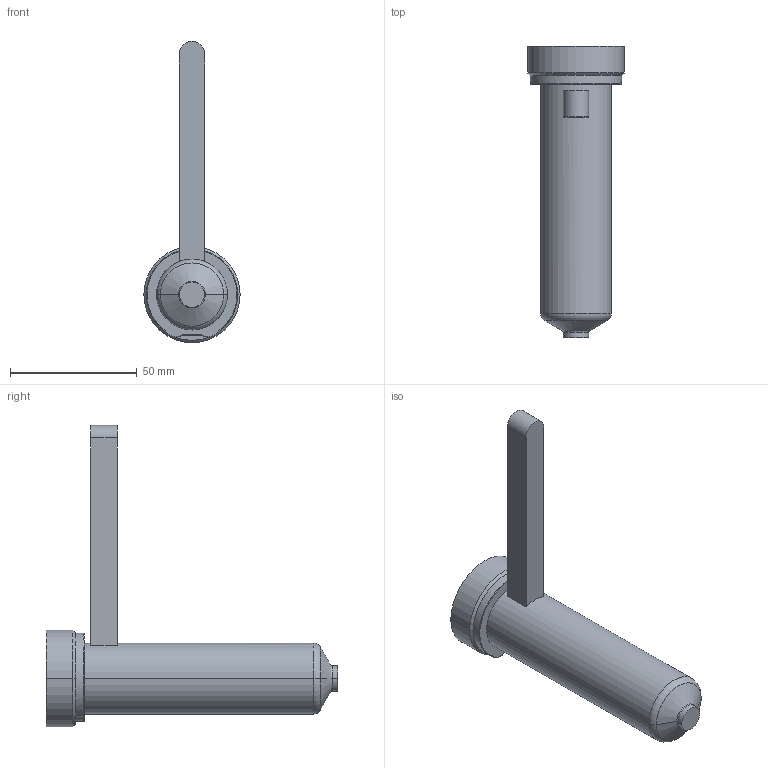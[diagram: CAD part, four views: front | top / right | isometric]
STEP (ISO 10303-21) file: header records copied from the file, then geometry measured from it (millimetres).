
FILE_DESCRIPTION((''),'2;1');
FILE_NAME('EO06_PG-FB_WR_100_COT','2024-02-19T11:28:09',('sundharh'),(''),'CREO PARAMETRIC BY PTC INC, 2023154','CREO PARAMETRIC BY PTC INC, 2023154','');
FILE_SCHEMA(('CONFIG_CONTROL_DESIGN'));
Length unit declared in the file: millimetre
Products named in the file (1): EO06_PG-FB_WR_100_COT
Bounding box: 38 x 115 x 119 mm (x, y, z)
Volume: 84025 mm3; surface area: 15691.5 mm2
Topology: 1 solids, 1 shells, 31 faces, 67 edges, 40 vertices
Faces by surface type: cylinder 11, plane 9, torus 7, cone 4
Entity records: 963 total; most frequent: CARTESIAN_POINT 230, DIRECTION 159, ORIENTED_EDGE 134, AXIS2_PLACEMENT_3D 67, EDGE_CURVE 67, VERTEX_POINT 40, CIRCLE 36, EDGE_LOOP 33
